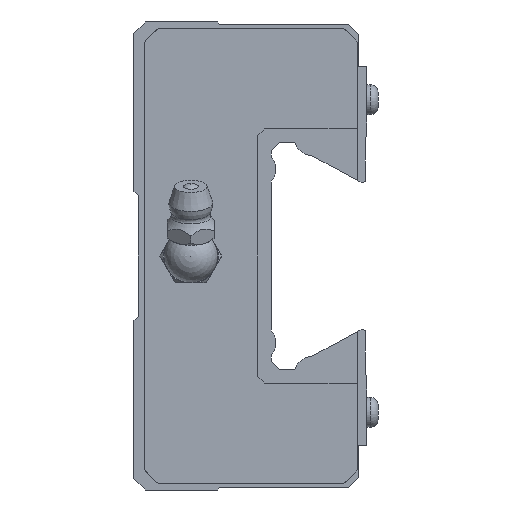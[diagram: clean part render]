
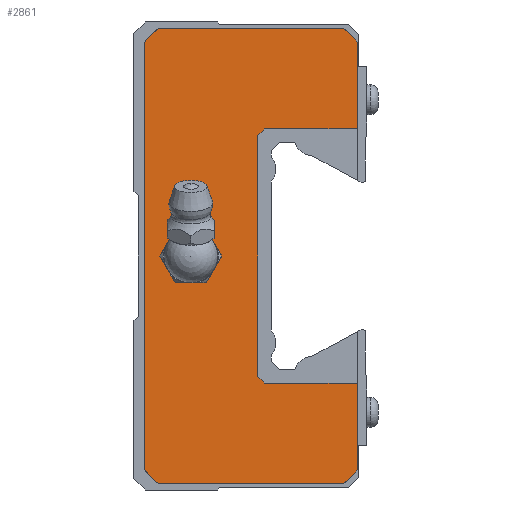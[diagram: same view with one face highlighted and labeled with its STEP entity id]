
A CAD part, left-side view. The second image highlights one B-rep face of the part: STEP entity #2861.
In plain terms, the highlighted planar face has unit normal (-1, 0, 0).
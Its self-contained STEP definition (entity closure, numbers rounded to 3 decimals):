
#116=LINE('',#4302,#416);
#131=LINE('',#4333,#431);
#138=LINE('',#4347,#438);
#142=LINE('',#4354,#442);
#150=LINE('',#4371,#450);
#153=LINE('',#4376,#453);
#161=LINE('',#4388,#461);
#194=LINE('',#4456,#494);
#200=LINE('',#4469,#500);
#309=LINE('',#4756,#609);
#310=LINE('',#4759,#610);
#311=LINE('',#4760,#611);
#312=LINE('',#4762,#612);
#313=LINE('',#4764,#613);
#416=VECTOR('',#3395,1000.);
#431=VECTOR('',#3412,1000.);
#438=VECTOR('',#3423,1000.);
#442=VECTOR('',#3429,1000.);
#450=VECTOR('',#3439,1000.);
#453=VECTOR('',#3444,1000.);
#461=VECTOR('',#3460,1000.);
#494=VECTOR('',#3511,1000.);
#500=VECTOR('',#3519,1000.);
#609=VECTOR('',#3772,1000.);
#610=VECTOR('',#3773,1000.);
#611=VECTOR('',#3774,1000.);
#612=VECTOR('',#3775,1000.);
#613=VECTOR('',#3776,1000.);
#722=PLANE('',#3105);
#832=CIRCLE('',#3106,3.);
#1424=ORIENTED_EDGE('',*,*,#1969,.T.);
#1425=ORIENTED_EDGE('',*,*,#1970,.T.);
#1426=ORIENTED_EDGE('',*,*,#1971,.T.);
#1427=ORIENTED_EDGE('',*,*,#1827,.F.);
#1428=ORIENTED_EDGE('',*,*,#1773,.F.);
#1429=ORIENTED_EDGE('',*,*,#1769,.F.);
#1430=ORIENTED_EDGE('',*,*,#1762,.F.);
#1431=ORIENTED_EDGE('',*,*,#1792,.F.);
#1432=ORIENTED_EDGE('',*,*,#1747,.F.);
#1433=ORIENTED_EDGE('',*,*,#1784,.F.);
#1434=ORIENTED_EDGE('',*,*,#1781,.F.);
#1435=ORIENTED_EDGE('',*,*,#1833,.F.);
#1436=ORIENTED_EDGE('',*,*,#1972,.T.);
#1437=ORIENTED_EDGE('',*,*,#1973,.T.);
#1438=ORIENTED_EDGE('',*,*,#1974,.T.);
#1747=EDGE_CURVE('',#2104,#2105,#116,.T.);
#1762=EDGE_CURVE('',#2119,#2120,#131,.T.);
#1769=EDGE_CURVE('',#2120,#2125,#138,.T.);
#1773=EDGE_CURVE('',#2125,#2127,#142,.T.);
#1781=EDGE_CURVE('',#2134,#2135,#150,.T.);
#1784=EDGE_CURVE('',#2135,#2104,#153,.T.);
#1792=EDGE_CURVE('',#2105,#2119,#161,.T.);
#1827=EDGE_CURVE('',#2127,#2162,#194,.T.);
#1833=EDGE_CURVE('',#2167,#2134,#200,.T.);
#1969=EDGE_CURVE('',#2273,#2273,#832,.T.);
#1970=EDGE_CURVE('',#2274,#2275,#309,.T.);
#1971=EDGE_CURVE('',#2275,#2162,#310,.T.);
#1972=EDGE_CURVE('',#2167,#2276,#311,.T.);
#1973=EDGE_CURVE('',#2276,#2277,#312,.T.);
#1974=EDGE_CURVE('',#2277,#2274,#313,.T.);
#2104=VERTEX_POINT('',#4301);
#2105=VERTEX_POINT('',#4303);
#2119=VERTEX_POINT('',#4332);
#2120=VERTEX_POINT('',#4334);
#2125=VERTEX_POINT('',#4348);
#2127=VERTEX_POINT('',#4355);
#2134=VERTEX_POINT('',#4370);
#2135=VERTEX_POINT('',#4372);
#2162=VERTEX_POINT('',#4457);
#2167=VERTEX_POINT('',#4468);
#2273=VERTEX_POINT('',#4755);
#2274=VERTEX_POINT('',#4757);
#2275=VERTEX_POINT('',#4758);
#2276=VERTEX_POINT('',#4761);
#2277=VERTEX_POINT('',#4763);
#2452=EDGE_LOOP('',(#1424));
#2453=EDGE_LOOP('',(#1425,#1426,#1427,#1428,#1429,#1430,#1431,#1432,#1433,
#1434,#1435,#1436,#1437,#1438));
#2661=FACE_BOUND('',#2452,.T.);
#2662=FACE_BOUND('',#2453,.T.);
#2861=ADVANCED_FACE('',(#2661,#2662),#722,.F.);
#3105=AXIS2_PLACEMENT_3D('',#4753,#3768,#3769);
#3106=AXIS2_PLACEMENT_3D('',#4754,#3770,#3771);
#3395=DIRECTION('',(0.,0.707,0.707));
#3412=DIRECTION('',(0.,-0.707,0.707));
#3423=DIRECTION('',(0.,-1.,0.));
#3429=DIRECTION('',(0.,-0.707,-0.707));
#3439=DIRECTION('',(0.,0.707,-0.707));
#3444=DIRECTION('',(0.,1.,0.));
#3460=DIRECTION('',(0.,0.,1.));
#3511=DIRECTION('',(0.,0.,-1.));
#3519=DIRECTION('',(0.,0.,-1.));
#3768=DIRECTION('',(1.,0.,0.));
#3769=DIRECTION('',(0.,0.,-1.));
#3770=DIRECTION('',(1.,0.,0.));
#3771=DIRECTION('',(0.,0.,-1.));
#3772=DIRECTION('',(0.,-0.707,0.707));
#3773=DIRECTION('',(0.,-1.,0.));
#3774=DIRECTION('',(0.,1.,0.));
#3775=DIRECTION('',(0.,0.707,0.707));
#3776=DIRECTION('',(0.,0.,1.));
#4301=CARTESIAN_POINT('',(-53.5,32.9,-34.));
#4302=CARTESIAN_POINT('',(-53.5,32.9,-34.));
#4303=CARTESIAN_POINT('',(-53.5,34.9,-32.));
#4332=CARTESIAN_POINT('',(-53.5,34.9,32.));
#4333=CARTESIAN_POINT('',(-53.5,34.9,32.));
#4334=CARTESIAN_POINT('',(-53.5,32.9,34.));
#4347=CARTESIAN_POINT('',(-53.5,32.9,34.));
#4348=CARTESIAN_POINT('',(-53.5,5.1,34.));
#4354=CARTESIAN_POINT('',(-53.5,5.1,34.));
#4355=CARTESIAN_POINT('',(-53.5,3.1,32.));
#4370=CARTESIAN_POINT('',(-53.5,3.1,-32.));
#4371=CARTESIAN_POINT('',(-53.5,3.1,-32.));
#4372=CARTESIAN_POINT('',(-53.5,5.1,-34.));
#4376=CARTESIAN_POINT('',(-53.5,5.1,-34.));
#4388=CARTESIAN_POINT('',(-53.5,34.9,-32.));
#4456=CARTESIAN_POINT('',(-53.5,3.1,32.));
#4457=CARTESIAN_POINT('',(-53.5,3.1,19.));
#4468=CARTESIAN_POINT('',(-53.5,3.1,-19.));
#4469=CARTESIAN_POINT('',(-53.5,3.1,32.));
#4753=CARTESIAN_POINT('',(-53.5,0.,0.));
#4754=CARTESIAN_POINT('',(-53.5,28.,0.));
#4755=CARTESIAN_POINT('',(-53.5,28.,-3.));
#4756=CARTESIAN_POINT('',(-53.5,18.,18.));
#4757=CARTESIAN_POINT('',(-53.5,18.,18.));
#4758=CARTESIAN_POINT('',(-53.5,17.,19.));
#4759=CARTESIAN_POINT('',(-53.5,17.,19.));
#4760=CARTESIAN_POINT('',(-53.5,3.1,-19.));
#4761=CARTESIAN_POINT('',(-53.5,17.,-19.));
#4762=CARTESIAN_POINT('',(-53.5,17.,-19.));
#4763=CARTESIAN_POINT('',(-53.5,18.,-18.));
#4764=CARTESIAN_POINT('',(-53.5,18.,-18.));
